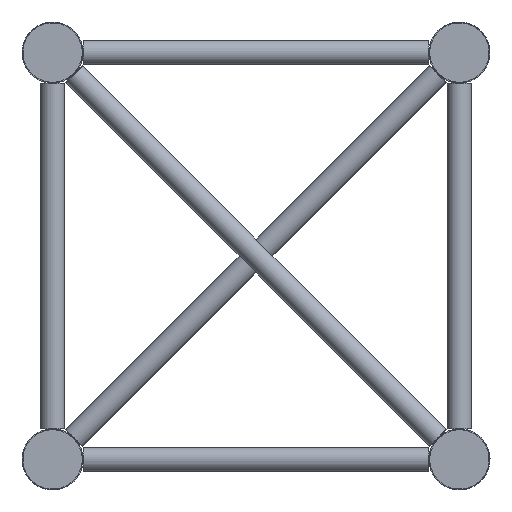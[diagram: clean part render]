
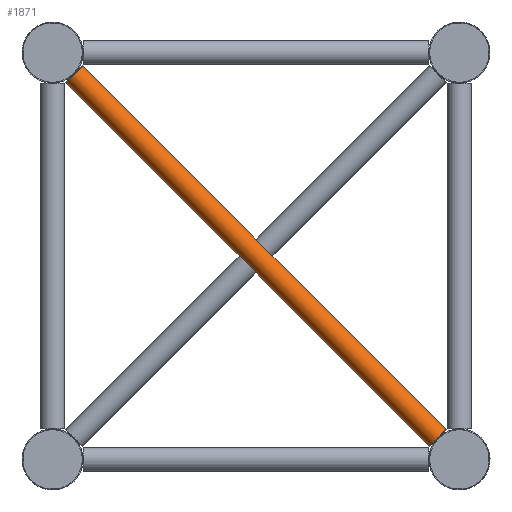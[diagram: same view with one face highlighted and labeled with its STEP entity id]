
A CAD part, left-side view. The second image highlights one B-rep face of the part: STEP entity #1871.
In plain terms, the highlighted cylindrical face has radius 10 mm (diameter 20 mm), a full revolution.
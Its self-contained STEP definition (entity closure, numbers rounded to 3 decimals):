
#185=FACE_BOUND('',#496,.T.);
#299=CYLINDRICAL_SURFACE('',#2028,10.);
#344=FACE_OUTER_BOUND('',#495,.T.);
#495=EDGE_LOOP('',(#1163));
#496=EDGE_LOOP('',(#1164));
#756=CIRCLE('',#2027,10.);
#757=CIRCLE('',#2029,10.);
#824=VERTEX_POINT('',#2870);
#825=VERTEX_POINT('',#2873);
#972=EDGE_CURVE('',#824,#824,#756,.T.);
#973=EDGE_CURVE('',#825,#825,#757,.T.);
#1163=ORIENTED_EDGE('',*,*,#972,.T.);
#1164=ORIENTED_EDGE('',*,*,#973,.T.);
#1871=ADVANCED_FACE('',(#344,#185),#299,.T.);
#2027=AXIS2_PLACEMENT_3D('',#2871,#2301,#2302);
#2028=AXIS2_PLACEMENT_3D('',#2872,#2303,#2304);
#2029=AXIS2_PLACEMENT_3D('',#2874,#2305,#2306);
#2301=DIRECTION('center_axis',(0.,0.707,
0.707));
#2302=DIRECTION('ref_axis',(0.,0.707,-0.707));
#2303=DIRECTION('center_axis',(0.,0.707,
0.707));
#2304=DIRECTION('ref_axis',(0.,0.707,-0.707));
#2305=DIRECTION('center_axis',(0.,-0.707,
-0.707));
#2306=DIRECTION('ref_axis',(0.,0.707,-0.707));
#2870=CARTESIAN_POINT('',(60.,10.967,-313.891));
#2871=CARTESIAN_POINT('Origin',(60.,18.038,-320.962));
#2872=CARTESIAN_POINT('Origin',(60.,169.5,-169.5));
#2873=CARTESIAN_POINT('',(60.,313.891,-10.967));
#2874=CARTESIAN_POINT('Origin',(60.,320.962,-18.038));
